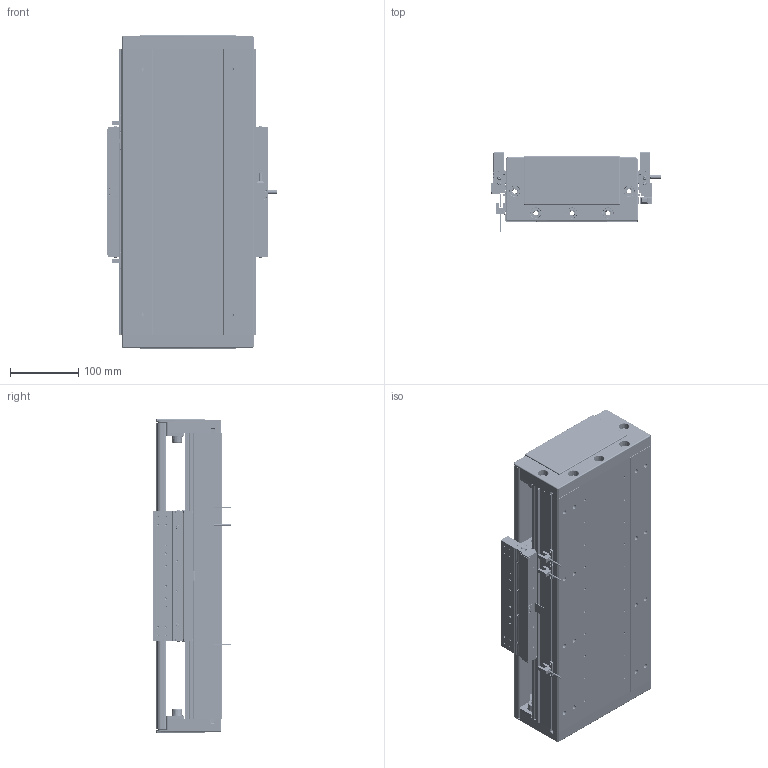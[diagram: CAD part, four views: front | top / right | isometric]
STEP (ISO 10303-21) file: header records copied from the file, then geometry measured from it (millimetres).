
FILE_DESCRIPTION (( 'STEP AP203' ), '1' );
FILE_NAME ('DA-C195-C2-T180-C010-0.2 眻盄萇儂.STEP', '2025-08-15T00:57:49', ( '' ), ( '' ), 'SwSTEP 2.0', 'SolidWorks 2019', '' );
FILE_SCHEMA (( 'CONFIG_CONTROL_DESIGN' ));
Length unit declared in the file: millimetre
Products named in the file (12): CU195-C2賑輸-俋楷; IU-CU195-L 菁釱絳寢; 66156-0001-003-00 裔啣; LMT黍杅芛; MS200 棠掑喜S315-T240; PM-T45ㄗ侂狟ㄘ; DA195-DG-H-00  端盖（压铸镂空版）; DA-C195-C2-T180-C010-0.2 眻盄萇儂; 66156-0001-005-00 光电感应片(默认); 葩璃 DA95-GT-T-00; DA95-HXJ-00 遣喳砎蝶; IU-CU195-L-00 菁釱(L420)
Assembly tree (20 placements, depth 3):
  DA-C195-C2-T180-C010-0.2 眻盄萇儂
    IU-CU195-L 菁釱絳寢
      IU-CU195-L-00 菁釱(L420)
      葩璃 DA95-GT-T-00  x4
    LMT黍杅芛
    MS200 棠掑喜S315-T240
    PM-T45ㄗ侂狟ㄘ  x3
    66156-0001-005-00 光电感应片(默认)
    DA195-DG-H-00  端盖（压铸镂空版）  x2
    DA95-HXJ-00 遣喳砎蝶  x4
    66156-0001-003-00 裔啣
    CU195-C2賑輸-俋楷
Bounding box: 248 x 115.6 x 460 mm (x, y, z)
Volume: 4115942.3 mm3; surface area: 1151391.2 mm2
Topology: 58 solids, 130 shells, 4955 faces, 12284 edges, 7401 vertices
Faces by surface type: cylinder 1981, plane 1624, bspline 710, cone 560, torus 44, sphere 36
Entity records: 129897 total; most frequent: CARTESIAN_POINT 39187, ORIENTED_EDGE 18622, DIRECTION 18408, EDGE_CURVE 9311, AXIS2_PLACEMENT_3D 6827, VERTEX_POINT 5831, VECTOR 4754, LINE 4754
